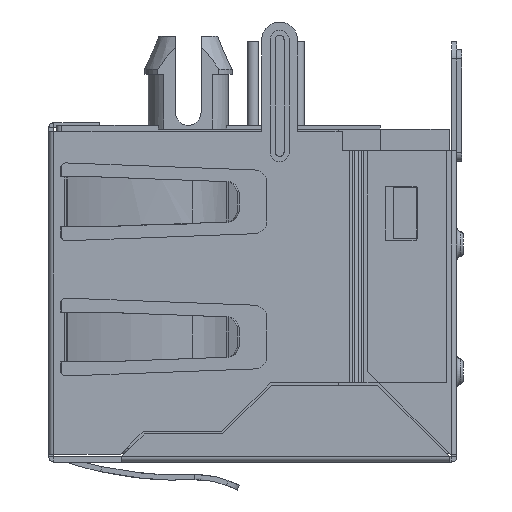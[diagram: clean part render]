
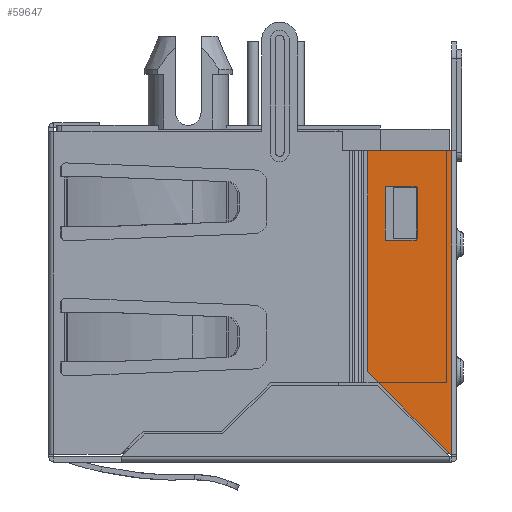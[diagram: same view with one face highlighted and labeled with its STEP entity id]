
A CAD part, left-side view. The second image highlights one B-rep face of the part: STEP entity #59647.
In plain terms, the highlighted planar face has unit normal (-1, 0, 0).
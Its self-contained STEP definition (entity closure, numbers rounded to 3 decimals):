
#46798=DIRECTION('',(0.,0.,1.));
#46799=VECTOR('',#46798,11.9);
#46800=CARTESIAN_POINT('',(-31.95,-7.8,0.3));
#46801=LINE('',#46800,#46799);
#47073=DIRECTION('',(0.,0.707,0.707));
#47074=VECTOR('',#47073,4.584);
#47075=CARTESIAN_POINT('',(-31.95,-7.741,0.3));
#47076=LINE('',#47075,#47074);
#47077=DIRECTION('',(0.,0.,1.));
#47078=VECTOR('',#47077,8.659);
#47079=CARTESIAN_POINT('',(-31.95,-4.5,3.541));
#47080=LINE('',#47079,#47078);
#47081=DIRECTION('',(0.,-1.,0.));
#47082=VECTOR('',#47081,3.3);
#47083=CARTESIAN_POINT('',(-31.95,-4.5,12.2));
#47084=LINE('',#47083,#47082);
#47085=DIRECTION('',(0.,-1.,0.));
#47086=VECTOR('',#47085,0.059);
#47087=CARTESIAN_POINT('',(-31.95,-7.741,0.3));
#47088=LINE('',#47087,#47086);
#47105=DIRECTION('',(0.,0.,1.));
#47106=VECTOR('',#47105,2.1);
#47107=CARTESIAN_POINT('',(-31.95,-6.4,8.7));
#47108=LINE('',#47107,#47106);
#47113=DIRECTION('',(0.,-1.,0.));
#47114=VECTOR('',#47113,1.2);
#47115=CARTESIAN_POINT('',(-31.95,-5.2,8.7));
#47116=LINE('',#47115,#47114);
#47125=DIRECTION('',(0.,0.,1.));
#47126=VECTOR('',#47125,2.1);
#47127=CARTESIAN_POINT('',(-31.95,-5.2,8.7));
#47128=LINE('',#47127,#47126);
#47137=DIRECTION('',(0.,-1.,0.));
#47138=VECTOR('',#47137,1.2);
#47139=CARTESIAN_POINT('',(-31.95,-5.2,10.8));
#47140=LINE('',#47139,#47138);
#56230=CARTESIAN_POINT('',(-31.95,-7.8,12.2));
#56231=VERTEX_POINT('',#56230);
#56232=CARTESIAN_POINT('',(-31.95,-4.5,12.2));
#56233=VERTEX_POINT('',#56232);
#56238=CARTESIAN_POINT('',(-31.95,-7.8,0.3));
#56239=VERTEX_POINT('',#56238);
#56316=CARTESIAN_POINT('',(-31.95,-4.5,3.541));
#56317=VERTEX_POINT('',#56316);
#56318=CARTESIAN_POINT('',(-31.95,-7.741,0.3));
#56319=VERTEX_POINT('',#56318);
#56320=CARTESIAN_POINT('',(-31.95,-6.4,8.7));
#56321=CARTESIAN_POINT('',(-31.95,-6.4,10.8));
#56322=VERTEX_POINT('',#56320);
#56323=VERTEX_POINT('',#56321);
#56324=CARTESIAN_POINT('',(-31.95,-5.2,8.7));
#56325=VERTEX_POINT('',#56324);
#56326=CARTESIAN_POINT('',(-31.95,-5.2,10.8));
#56327=VERTEX_POINT('',#56326);
#59623=CARTESIAN_POINT('',(-31.95,-6.15,6.25));
#59624=DIRECTION('',(1.,0.,0.));
#59625=DIRECTION('',(0.,0.,-1.));
#59626=AXIS2_PLACEMENT_3D('',#59623,#59624,#59625);
#59627=PLANE('',#59626);
#59629=ORIENTED_EDGE('',*,*,#59628,.F.);
#59631=ORIENTED_EDGE('',*,*,#59630,.T.);
#59632=ORIENTED_EDGE('',*,*,#59614,.T.);
#59633=ORIENTED_EDGE('',*,*,#59304,.T.);
#59634=ORIENTED_EDGE('',*,*,#59322,.F.);
#59635=EDGE_LOOP('',(#59629,#59631,#59632,#59633,#59634));
#59636=FACE_OUTER_BOUND('',#59635,.F.);
#59638=ORIENTED_EDGE('',*,*,#59637,.T.);
#59640=ORIENTED_EDGE('',*,*,#59639,.F.);
#59642=ORIENTED_EDGE('',*,*,#59641,.F.);
#59644=ORIENTED_EDGE('',*,*,#59643,.T.);
#59645=EDGE_LOOP('',(#59638,#59640,#59642,#59644));
#59646=FACE_BOUND('',#59645,.F.);
#59647=ADVANCED_FACE('',(#59636,#59646),#59627,.F.);
#59304=EDGE_CURVE('',#56233,#56231,#47084,.T.);
#59322=EDGE_CURVE('',#56239,#56231,#46801,.T.);
#59614=EDGE_CURVE('',#56317,#56233,#47080,.T.);
#59628=EDGE_CURVE('',#56319,#56239,#47088,.T.);
#59630=EDGE_CURVE('',#56319,#56317,#47076,.T.);
#59637=EDGE_CURVE('',#56322,#56323,#47108,.T.);
#59639=EDGE_CURVE('',#56327,#56323,#47140,.T.);
#59641=EDGE_CURVE('',#56325,#56327,#47128,.T.);
#59643=EDGE_CURVE('',#56325,#56322,#47116,.T.);
